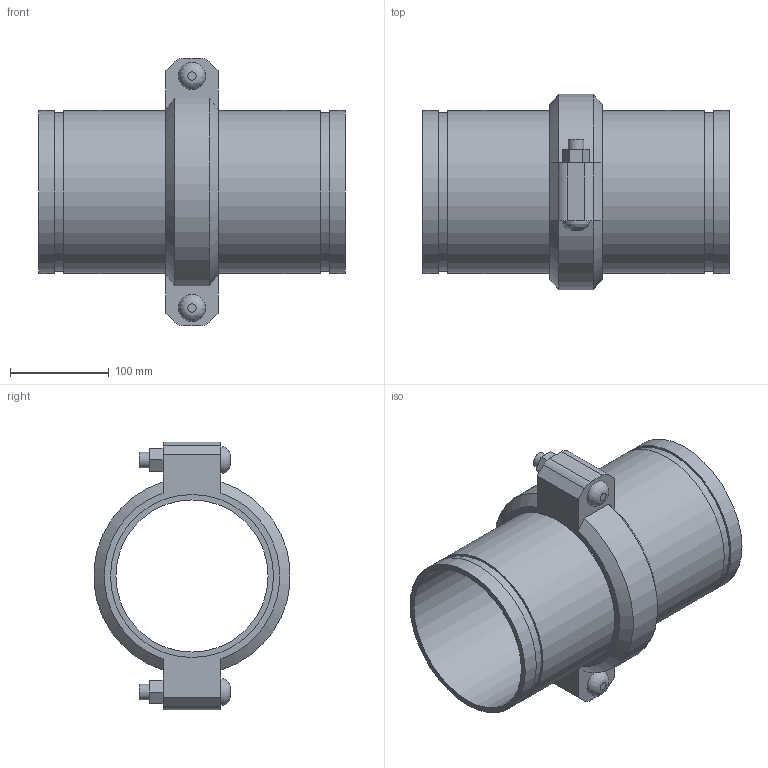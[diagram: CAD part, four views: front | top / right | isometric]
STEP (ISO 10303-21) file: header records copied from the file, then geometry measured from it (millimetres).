
FILE_DESCRIPTION(/* description */ ('VIC EXPANSION JOINT 1 COUPLING EXPANDED STYLE 155 (OGS)','CAx-IF Rec.Pracs.---Representation and Presentation of Product Manufacturing Information (PMI)---4.0---2014-10-13'),/* implementation_level */ '2;1');
FILE_NAME(/* name */ 'C:\Users\kkamble\AppData\Roaming\Autodesk\ApplicationPlugins\Victaulic.Temp\A694\Victaulic_IPS_Expansion Joint_Expanded_1 Coupling_Style 155 (OGS)_06.0 (165.1) (150).stp',/* time_stamp */ '2021-06-26T23:47:57+02:00',/* author */ ('kkamble'),/* organization */ ('Victaulic'),/* preprocessor_version */ 'ST-DEVELOPER v17.2',/* originating_system */ 'Autodesk Inventor 2019',/* authorisation */ '');
FILE_SCHEMA (('AP242_MANAGED_MODEL_BASED_3D_ENGINEERING_MIM_LF { 1 0 10303 442 1 1 4 }'));
Length unit declared in the file: inch
Products named in the file (3): 155-06.0 (165.1); Nipple-06.0 (165.1); 075-06.0 (165.1)
Assembly tree (3 placements, depth 2):
  155-06.0 (165.1)
    Nipple-06.0 (165.1)  x2
    075-06.0 (165.1)
Bounding box: 310.39 x 198.42 x 270.76 mm (x, y, z)
Volume: 1520320.4 mm3; surface area: 436012 mm2
Topology: 3 solids, 5 shells, 81 faces, 193 edges, 138 vertices
Faces by surface type: plane 48, cylinder 27, cone 4, bspline 2
Full cylindrical faces by diameter (mm): 15.875 x4, 17.424 x2, 153.975 x2, 158.75 x1, 160.782 x4, 165.1 x8
Entity records: 2301 total; most frequent: CARTESIAN_POINT 420, DIRECTION 369, ORIENTED_EDGE 326, EDGE_CURVE 163, AXIS2_PLACEMENT_3D 141, VERTEX_POINT 114, EDGE_LOOP 89, LINE 87
